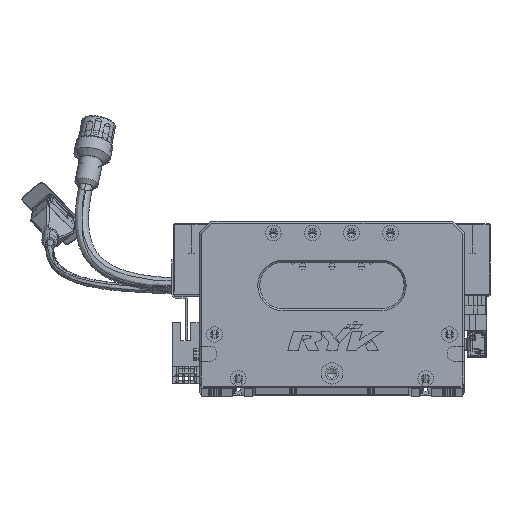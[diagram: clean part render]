
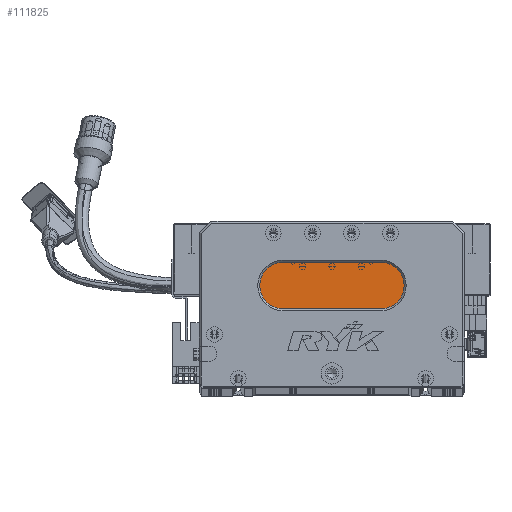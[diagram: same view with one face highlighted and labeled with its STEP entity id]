
A CAD part, top view. The second image highlights one B-rep face of the part: STEP entity #111825.
In plain terms, the highlighted planar face has unit normal (0, 0, 1) as drawn and (0, 0, -1) by its records, which use the part's own axes.
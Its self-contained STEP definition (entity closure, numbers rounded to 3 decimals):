
#1522 = EDGE_CURVE ( 'NONE', #59367, #112633, #102812, .T. ) ;
#4684 = CIRCLE ( 'NONE', #107356, 12. ) ;
#5090 = CARTESIAN_POINT ( 'NONE',  ( 43., 40., 13. ) ) ;
#9211 = ORIENTED_EDGE ( 'NONE', *, *, #100291, .T. ) ;
#11932 = CARTESIAN_POINT ( 'NONE',  ( 93., 40., 13. ) ) ;
#15500 = VERTEX_POINT ( 'NONE', #24974 ) ;
#15661 = DIRECTION ( 'NONE',  ( -1., 0., 0. ) ) ;
#19893 = ORIENTED_EDGE ( 'NONE', *, *, #1522, .T. ) ;
#24974 = CARTESIAN_POINT ( 'NONE',  ( 31., 52., 13. ) ) ;
#26070 = CARTESIAN_POINT ( 'NONE',  ( 93., 52., 13. ) ) ;
#29154 = EDGE_LOOP ( 'NONE', ( #9211, #19893, #99132, #36758, #66661 ) ) ;
#31631 = EDGE_CURVE ( 'NONE', #54114, #117148, #58058, .T. ) ;
#36758 = ORIENTED_EDGE ( 'NONE', *, *, #47112, .T. ) ;
#37531 = CARTESIAN_POINT ( 'NONE',  ( 43., 64., 13. ) ) ;
#40077 = AXIS2_PLACEMENT_3D ( 'NONE', #53962, #121830, #82330 ) ;
#41414 = CIRCLE ( 'NONE', #40077, 12. ) ;
#47112 = EDGE_CURVE ( 'NONE', #15500, #54114, #61523, .T. ) ;
#53962 = CARTESIAN_POINT ( 'NONE',  ( 43., 52., 13. ) ) ;
#54114 = VERTEX_POINT ( 'NONE', #37531 ) ;
#58058 = LINE ( 'NONE', #94971, #80452 ) ;
#59367 = VERTEX_POINT ( 'NONE', #101187 ) ;
#61523 = CIRCLE ( 'NONE', #87936, 12. ) ;
#64758 = CARTESIAN_POINT ( 'NONE',  ( 43., 52., 13. ) ) ;
#66661 = ORIENTED_EDGE ( 'NONE', *, *, #31631, .T. ) ;
#80452 = VECTOR ( 'NONE', #94578, 1000. ) ;
#82330 = DIRECTION ( 'NONE',  ( -1., 0., 0. ) ) ;
#83115 = DIRECTION ( 'NONE',  ( -1., 0., 0. ) ) ;
#83520 = DIRECTION ( 'NONE',  ( 0., 0., -1. ) ) ;
#87936 = AXIS2_PLACEMENT_3D ( 'NONE', #64758, #83520, #83115 ) ;
#91349 = CARTESIAN_POINT ( 'NONE',  ( 93., 64., 13. ) ) ;
#92683 = DIRECTION ( 'NONE',  ( 0., 0., -1. ) ) ;
#93562 = DIRECTION ( 'NONE',  ( -1., 0., 0. ) ) ;
#94578 = DIRECTION ( 'NONE',  ( 1., 0., 0. ) ) ;
#94971 = CARTESIAN_POINT ( 'NONE',  ( 93., 64., 13. ) ) ;
#96000 = EDGE_CURVE ( 'NONE', #112633, #15500, #41414, .T. ) ;
#99132 = ORIENTED_EDGE ( 'NONE', *, *, #96000, .T. ) ;
#100291 = EDGE_CURVE ( 'NONE', #117148, #59367, #4684, .T. ) ;
#101187 = CARTESIAN_POINT ( 'NONE',  ( 93., 40., 13. ) ) ;
#101401 = VECTOR ( 'NONE', #118082, 1000. ) ;
#102271 = PLANE ( 'NONE',  #112281 ) ;
#102812 = LINE ( 'NONE', #11932, #101401 ) ;
#107356 = AXIS2_PLACEMENT_3D ( 'NONE', #26070, #92683, #15661 ) ;
#111825 = ADVANCED_FACE ( 'NONE', ( #117470 ), #102271, .T. ) ;
#112281 = AXIS2_PLACEMENT_3D ( 'NONE', #113085, #123024, #93562 ) ;
#112633 = VERTEX_POINT ( 'NONE', #5090 ) ;
#113085 = CARTESIAN_POINT ( 'NONE',  ( 93., 52., 13. ) ) ;
#117148 = VERTEX_POINT ( 'NONE', #91349 ) ;
#117470 = FACE_OUTER_BOUND ( 'NONE', #29154, .T. ) ;
#118082 = DIRECTION ( 'NONE',  ( -1., 0., 0. ) ) ;
#121830 = DIRECTION ( 'NONE',  ( 0., 0., -1. ) ) ;
#123024 = DIRECTION ( 'NONE',  ( 0., 0., -1. ) ) ;
